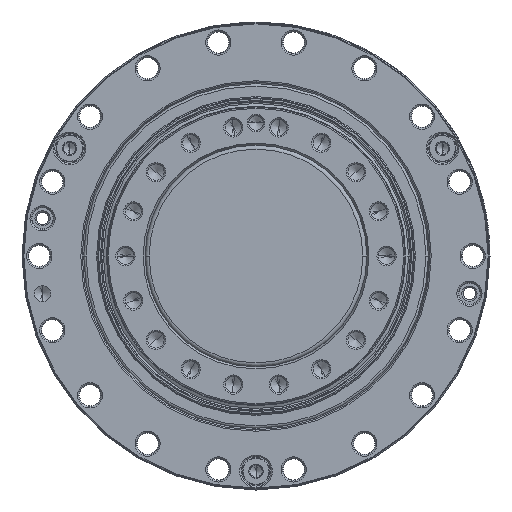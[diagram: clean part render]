
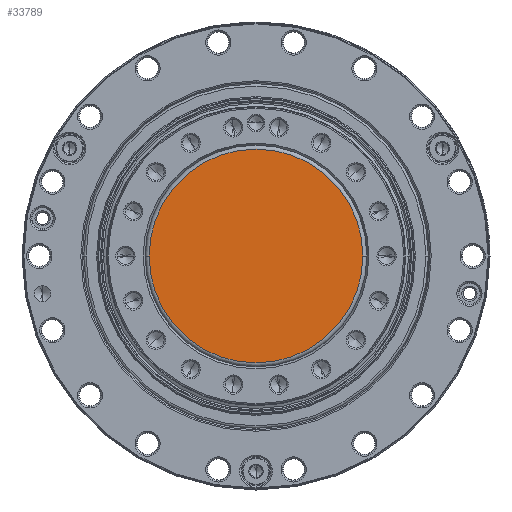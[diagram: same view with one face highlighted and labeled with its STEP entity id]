
A CAD part, left-side view. The second image highlights one B-rep face of the part: STEP entity #33789.
In plain terms, the highlighted planar face has unit normal (-1, 0, 0).
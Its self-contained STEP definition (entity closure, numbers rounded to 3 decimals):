
#33605=CARTESIAN_POINT('',(0.,0.,0.));
#33606=DIRECTION('',(1.,0.,0.));
#33607=DIRECTION('',(0.,-1.,0.));
#33608=AXIS2_PLACEMENT_3D('',#33605,#33606,#33607);
#33613=CARTESIAN_POINT('',(0.,0.,0.));
#33614=DIRECTION('',(1.,0.,0.));
#33615=DIRECTION('',(0.,1.,0.));
#33616=AXIS2_PLACEMENT_3D('',#33613,#33614,#33615);
#33648=CARTESIAN_POINT('',(0.,21.7,0.));
#33649=VERTEX_POINT('',#33648);
#33650=CARTESIAN_POINT('',(0.,-21.7,0.));
#33651=VERTEX_POINT('',#33650);
#33780=CARTESIAN_POINT('',(0.,0.,0.));
#33781=DIRECTION('',(1.,0.,0.));
#33782=DIRECTION('',(0.,-1.,0.));
#33783=AXIS2_PLACEMENT_3D('',#33780,#33781,#33782);
#33784=PLANE('',#33783);
#33785=ORIENTED_EDGE('',*,*,#33759,.T.);
#33786=ORIENTED_EDGE('',*,*,#33775,.T.);
#33787=EDGE_LOOP('',(#33785,#33786));
#33788=FACE_OUTER_BOUND('',#33787,.F.);
#33609=CIRCLE('',#33608,21.7);
#33617=CIRCLE('',#33616,21.7);
#33759=EDGE_CURVE('',#33651,#33649,#33609,.T.);
#33775=EDGE_CURVE('',#33649,#33651,#33617,.T.);
#33789=ADVANCED_FACE('',(#33788),#33784,.F.);
